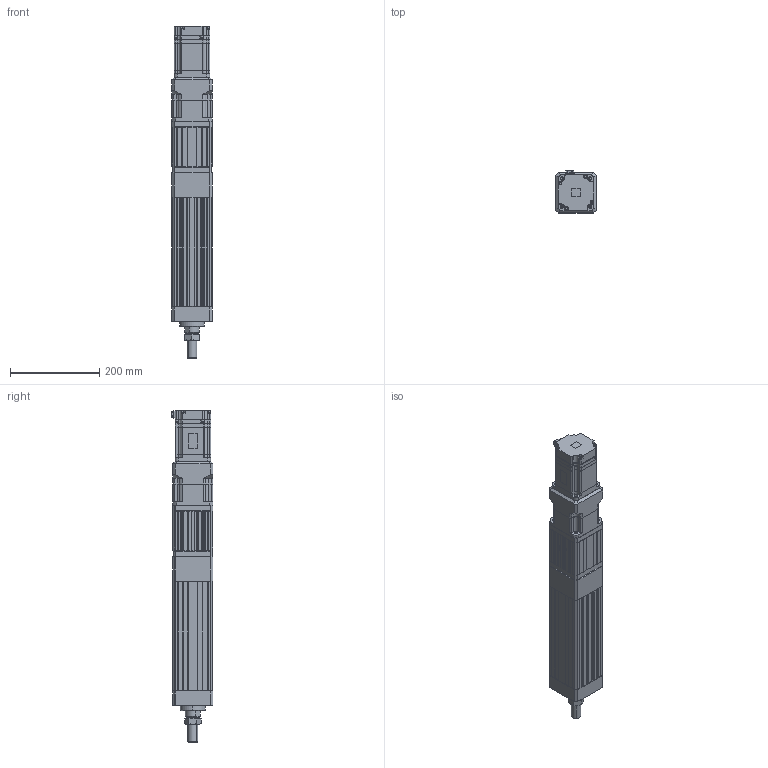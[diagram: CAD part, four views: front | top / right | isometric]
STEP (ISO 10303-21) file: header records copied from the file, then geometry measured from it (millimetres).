
FILE_DESCRIPTION (( 'STEP AP203' ), '1' );
FILE_NAME ('ANS090H-100-05(10)(25)-W75G05-M.STEP', '2019-03-16T06:48:40', ( 'user' ), ( '' ), 'SwSTEP 2.0', 'SolidWorks 2013', '' );
FILE_SCHEMA (( 'CONFIG_CONTROL_DESIGN' ));
Length unit declared in the file: millimetre
Products named in the file (6): ANS090 ROD ST100-M; SGMJV_08A_A21; AB090-005-S1-P2[YASKAWA SGMJV08A]; ANS090H-100-05(10)(25)-W75G05-M; ANS090H S100 VER2; HEXNUT-M22X1.5P
Assembly tree (5 placements, depth 2):
  ANS090H-100-05(10)(25)-W75G05-M
    ANS090H S100 VER2
    HEXNUT-M22X1.5P
    ANS090 ROD ST100-M
    SGMJV_08A_A21
    AB090-005-S1-P2[YASKAWA SGMJV08A]
Bounding box: 90 x 93.8 x 744.1 mm (x, y, z)
Volume: 2722915.3 mm3; surface area: 490129.4 mm2
Topology: 4 solids, 11 shells, 1615 faces, 4344 edges, 2802 vertices
Faces by surface type: plane 986, cylinder 481, cone 136, bspline 12
Entity records: 51143 total; most frequent: CARTESIAN_POINT 9819, ORIENTED_EDGE 8552, DIRECTION 8387, EDGE_CURVE 4320, VECTOR 3095, LINE 3095, VERTEX_POINT 2802, AXIS2_PLACEMENT_3D 2646
